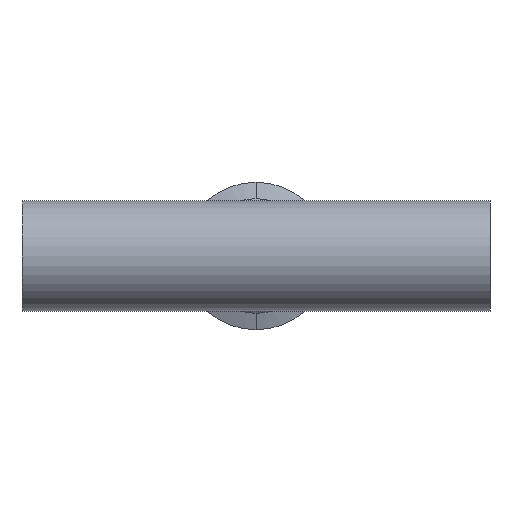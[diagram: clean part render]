
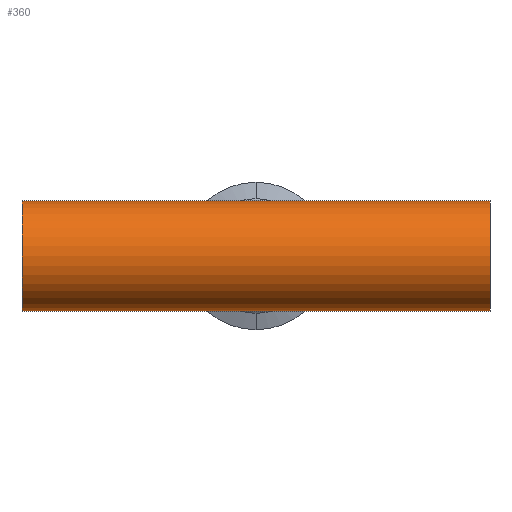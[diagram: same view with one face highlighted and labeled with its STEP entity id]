
A CAD part, front view. The second image highlights one B-rep face of the part: STEP entity #360.
In plain terms, the highlighted cylindrical face has radius 12.7 mm (diameter 25.4 mm), a partial arc.
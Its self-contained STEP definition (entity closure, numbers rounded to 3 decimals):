
#3 = DIRECTION ( 'NONE',  ( 1., 0., 0. ) ) ;
#10 = EDGE_CURVE ( 'NONE', #617, #770, #71, .T. ) ;
#11 = AXIS2_PLACEMENT_3D ( 'NONE', #266, #271, #278 ) ;
#16 = CARTESIAN_POINT ( 'NONE',  ( -54., 0., -12.7 ) ) ;
#33 = CARTESIAN_POINT ( 'NONE',  ( 54., 0., 12.7 ) ) ;
#71 = CIRCLE ( 'NONE', #11, 12.7 ) ;
#83 = VERTEX_POINT ( 'NONE', #645 ) ;
#127 = EDGE_CURVE ( 'NONE', #799, #617, #256, .T. ) ;
#145 = CARTESIAN_POINT ( 'NONE',  ( -54., 0., 12.7 ) ) ;
#147 = ORIENTED_EDGE ( 'NONE', *, *, #288, .F. ) ;
#152 = VECTOR ( 'NONE', #328, 1000. ) ;
#178 = ORIENTED_EDGE ( 'NONE', *, *, #820, .T. ) ;
#179 = VERTEX_POINT ( 'NONE', #1138 ) ;
#196 = VECTOR ( 'NONE', #496, 1000. ) ;
#256 = LINE ( 'NONE', #840, #1001 ) ;
#266 = CARTESIAN_POINT ( 'NONE',  ( 54., 0., 0. ) ) ;
#271 = DIRECTION ( 'NONE',  ( -1., 0., 0. ) ) ;
#278 = DIRECTION ( 'NONE',  ( 0., 0., -1. ) ) ;
#288 = EDGE_CURVE ( 'NONE', #179, #770, #952, .T. ) ;
#328 = DIRECTION ( 'NONE',  ( 1., 0., 0. ) ) ;
#360 = ADVANCED_FACE ( 'NONE', ( #760 ), #1129, .T. ) ;
#418 = CARTESIAN_POINT ( 'NONE',  ( 0., 0., -12.7 ) ) ;
#422 = VECTOR ( 'NONE', #3, 1000. ) ;
#424 = CARTESIAN_POINT ( 'NONE',  ( -54., 0., 0. ) ) ;
#460 = DIRECTION ( 'NONE',  ( 1., 0., 0. ) ) ;
#470 = ORIENTED_EDGE ( 'NONE', *, *, #513, .T. ) ;
#486 = LINE ( 'NONE', #145, #152 ) ;
#492 = ORIENTED_EDGE ( 'NONE', *, *, #127, .T. ) ;
#494 = CARTESIAN_POINT ( 'NONE',  ( 54., 0., -12.7 ) ) ;
#496 = DIRECTION ( 'NONE',  ( 1., 0., 0. ) ) ;
#513 = EDGE_CURVE ( 'NONE', #1221, #799, #581, .T. ) ;
#574 = AXIS2_PLACEMENT_3D ( 'NONE', #424, #993, #1195 ) ;
#581 = LINE ( 'NONE', #16, #422 ) ;
#617 = VERTEX_POINT ( 'NONE', #494 ) ;
#625 = DIRECTION ( 'NONE',  ( 0., 0., -1. ) ) ;
#643 = CARTESIAN_POINT ( 'NONE',  ( -54., 0., 0. ) ) ;
#645 = CARTESIAN_POINT ( 'NONE',  ( -54., 0., 12.7 ) ) ;
#650 = CARTESIAN_POINT ( 'NONE',  ( -54., 0., -12.7 ) ) ;
#666 = AXIS2_PLACEMENT_3D ( 'NONE', #643, #680, #625 ) ;
#680 = DIRECTION ( 'NONE',  ( 1., 0., 0. ) ) ;
#760 = FACE_OUTER_BOUND ( 'NONE', #987, .T. ) ;
#770 = VERTEX_POINT ( 'NONE', #33 ) ;
#799 = VERTEX_POINT ( 'NONE', #418 ) ;
#820 = EDGE_CURVE ( 'NONE', #83, #1221, #891, .T. ) ;
#840 = CARTESIAN_POINT ( 'NONE',  ( -54., 0., -12.7 ) ) ;
#891 = CIRCLE ( 'NONE', #666, 12.7 ) ;
#927 = ORIENTED_EDGE ( 'NONE', *, *, #978, .F. ) ;
#946 = ORIENTED_EDGE ( 'NONE', *, *, #10, .T. ) ;
#952 = LINE ( 'NONE', #1170, #196 ) ;
#978 = EDGE_CURVE ( 'NONE', #83, #179, #486, .T. ) ;
#987 = EDGE_LOOP ( 'NONE', ( #927, #178, #470, #492, #946, #147 ) ) ;
#993 = DIRECTION ( 'NONE',  ( 1., 0., 0. ) ) ;
#1001 = VECTOR ( 'NONE', #460, 1000. ) ;
#1129 = CYLINDRICAL_SURFACE ( 'NONE', #574, 12.7 ) ;
#1138 = CARTESIAN_POINT ( 'NONE',  ( 0., 0., 12.7 ) ) ;
#1170 = CARTESIAN_POINT ( 'NONE',  ( -54., 0., 12.7 ) ) ;
#1195 = DIRECTION ( 'NONE',  ( 0., 0., -1. ) ) ;
#1221 = VERTEX_POINT ( 'NONE', #650 ) ;
